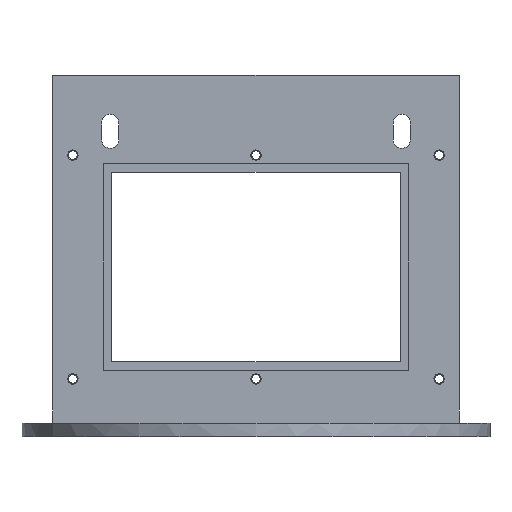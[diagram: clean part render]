
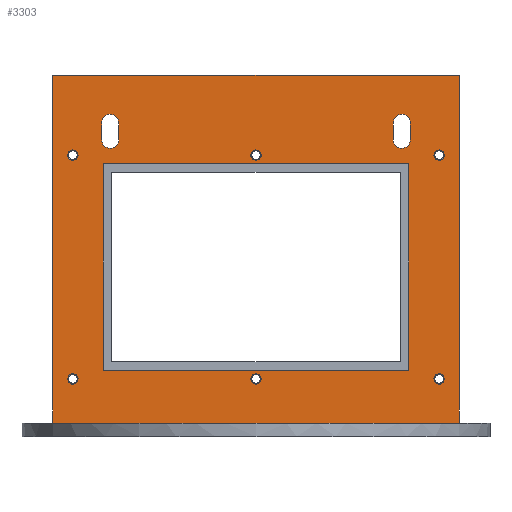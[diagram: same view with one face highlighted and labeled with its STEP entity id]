
A CAD part, front view. The second image highlights one B-rep face of the part: STEP entity #3303.
In plain terms, the highlighted planar face has unit normal (0, -1, 0).
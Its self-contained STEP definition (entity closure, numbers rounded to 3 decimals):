
#31=FACE_BOUND('',#481,.T.);
#32=FACE_BOUND('',#482,.T.);
#33=FACE_BOUND('',#483,.T.);
#34=FACE_BOUND('',#484,.T.);
#35=FACE_BOUND('',#485,.T.);
#36=FACE_BOUND('',#486,.T.);
#37=FACE_BOUND('',#487,.T.);
#38=FACE_BOUND('',#488,.T.);
#39=FACE_BOUND('',#489,.T.);
#122=PLANE('',#3622);
#290=FACE_OUTER_BOUND('',#480,.T.);
#480=EDGE_LOOP('',(#2537,#2538,#2539,#2540));
#481=EDGE_LOOP('',(#2541));
#482=EDGE_LOOP('',(#2542));
#483=EDGE_LOOP('',(#2543));
#484=EDGE_LOOP('',(#2544));
#485=EDGE_LOOP('',(#2545,#2546,#2547,#2548));
#486=EDGE_LOOP('',(#2549,#2550,#2551,#2552));
#487=EDGE_LOOP('',(#2553));
#488=EDGE_LOOP('',(#2554));
#489=EDGE_LOOP('',(#2555,#2556,#2557,#2558));
#772=LINE('',#5242,#1065);
#782=LINE('',#5264,#1075);
#783=LINE('',#5266,#1076);
#784=LINE('',#5267,#1077);
#785=LINE('',#5269,#1078);
#786=LINE('',#5272,#1079);
#787=LINE('',#5274,#1080);
#788=LINE('',#5277,#1081);
#789=LINE('',#5280,#1082);
#790=LINE('',#5282,#1083);
#791=LINE('',#5284,#1084);
#792=LINE('',#5285,#1085);
#1065=VECTOR('',#4269,1000.);
#1075=VECTOR('',#4285,1000.);
#1076=VECTOR('',#4286,1000.);
#1077=VECTOR('',#4287,1000.);
#1078=VECTOR('',#4288,1000.);
#1079=VECTOR('',#4291,1000.);
#1080=VECTOR('',#4292,1000.);
#1081=VECTOR('',#4295,1000.);
#1082=VECTOR('',#4296,1000.);
#1083=VECTOR('',#4297,1000.);
#1084=VECTOR('',#4298,1000.);
#1085=VECTOR('',#4299,1000.);
#1266=CIRCLE('',#3443,2.5);
#1270=CIRCLE('',#3449,2.5);
#1327=CIRCLE('',#3543,1.525);
#1330=CIRCLE('',#3548,1.525);
#1333=CIRCLE('',#3553,1.525);
#1336=CIRCLE('',#3558,1.525);
#1339=CIRCLE('',#3563,1.525);
#1342=CIRCLE('',#3568,1.525);
#1378=CIRCLE('',#3623,2.5);
#1379=CIRCLE('',#3624,2.5);
#1454=VERTEX_POINT('',#4825);
#1455=VERTEX_POINT('',#4826);
#1462=VERTEX_POINT('',#4843);
#1463=VERTEX_POINT('',#4844);
#1521=VERTEX_POINT('',#5034);
#1524=VERTEX_POINT('',#5044);
#1527=VERTEX_POINT('',#5054);
#1530=VERTEX_POINT('',#5064);
#1533=VERTEX_POINT('',#5074);
#1536=VERTEX_POINT('',#5084);
#1600=VERTEX_POINT('',#5239);
#1601=VERTEX_POINT('',#5241);
#1610=VERTEX_POINT('',#5263);
#1611=VERTEX_POINT('',#5265);
#1612=VERTEX_POINT('',#5268);
#1613=VERTEX_POINT('',#5270);
#1614=VERTEX_POINT('',#5273);
#1615=VERTEX_POINT('',#5275);
#1616=VERTEX_POINT('',#5278);
#1617=VERTEX_POINT('',#5279);
#1618=VERTEX_POINT('',#5281);
#1619=VERTEX_POINT('',#5283);
#1760=EDGE_CURVE('',#1454,#1455,#1266,.T.);
#1768=EDGE_CURVE('',#1462,#1463,#1270,.T.);
#1864=EDGE_CURVE('',#1521,#1521,#1327,.T.);
#1869=EDGE_CURVE('',#1524,#1524,#1330,.T.);
#1874=EDGE_CURVE('',#1527,#1527,#1333,.T.);
#1879=EDGE_CURVE('',#1530,#1530,#1336,.T.);
#1884=EDGE_CURVE('',#1533,#1533,#1339,.T.);
#1889=EDGE_CURVE('',#1536,#1536,#1342,.T.);
#1962=EDGE_CURVE('',#1601,#1600,#772,.T.);
#1974=EDGE_CURVE('',#1600,#1610,#782,.T.);
#1975=EDGE_CURVE('',#1611,#1610,#783,.T.);
#1976=EDGE_CURVE('',#1601,#1611,#784,.T.);
#1977=EDGE_CURVE('',#1455,#1612,#785,.T.);
#1978=EDGE_CURVE('',#1612,#1613,#1378,.T.);
#1979=EDGE_CURVE('',#1613,#1454,#786,.T.);
#1980=EDGE_CURVE('',#1463,#1614,#787,.T.);
#1981=EDGE_CURVE('',#1614,#1615,#1379,.T.);
#1982=EDGE_CURVE('',#1615,#1462,#788,.T.);
#1983=EDGE_CURVE('',#1616,#1617,#789,.T.);
#1984=EDGE_CURVE('',#1618,#1616,#790,.T.);
#1985=EDGE_CURVE('',#1619,#1618,#791,.T.);
#1986=EDGE_CURVE('',#1617,#1619,#792,.T.);
#2537=ORIENTED_EDGE('',*,*,#1962,.T.);
#2538=ORIENTED_EDGE('',*,*,#1974,.T.);
#2539=ORIENTED_EDGE('',*,*,#1975,.F.);
#2540=ORIENTED_EDGE('',*,*,#1976,.F.);
#2541=ORIENTED_EDGE('',*,*,#1879,.F.);
#2542=ORIENTED_EDGE('',*,*,#1874,.F.);
#2543=ORIENTED_EDGE('',*,*,#1869,.F.);
#2544=ORIENTED_EDGE('',*,*,#1864,.F.);
#2545=ORIENTED_EDGE('',*,*,#1977,.T.);
#2546=ORIENTED_EDGE('',*,*,#1978,.T.);
#2547=ORIENTED_EDGE('',*,*,#1979,.T.);
#2548=ORIENTED_EDGE('',*,*,#1760,.T.);
#2549=ORIENTED_EDGE('',*,*,#1980,.T.);
#2550=ORIENTED_EDGE('',*,*,#1981,.T.);
#2551=ORIENTED_EDGE('',*,*,#1982,.T.);
#2552=ORIENTED_EDGE('',*,*,#1768,.T.);
#2553=ORIENTED_EDGE('',*,*,#1884,.F.);
#2554=ORIENTED_EDGE('',*,*,#1889,.F.);
#2555=ORIENTED_EDGE('',*,*,#1983,.F.);
#2556=ORIENTED_EDGE('',*,*,#1984,.F.);
#2557=ORIENTED_EDGE('',*,*,#1985,.F.);
#2558=ORIENTED_EDGE('',*,*,#1986,.F.);
#3303=ADVANCED_FACE('',(#290,#31,#32,#33,#34,#35,#36,#37,#38,#39),#122,
 .F.);
#3443=AXIS2_PLACEMENT_3D('',#4827,#3823,#3824);
#3449=AXIS2_PLACEMENT_3D('',#4845,#3839,#3840);
#3543=AXIS2_PLACEMENT_3D('',#5036,#4066,#4067);
#3548=AXIS2_PLACEMENT_3D('',#5046,#4078,#4079);
#3553=AXIS2_PLACEMENT_3D('',#5056,#4090,#4091);
#3558=AXIS2_PLACEMENT_3D('',#5066,#4102,#4103);
#3563=AXIS2_PLACEMENT_3D('',#5076,#4114,#4115);
#3568=AXIS2_PLACEMENT_3D('',#5086,#4126,#4127);
#3622=AXIS2_PLACEMENT_3D('',#5262,#4283,#4284);
#3623=AXIS2_PLACEMENT_3D('',#5271,#4289,#4290);
#3624=AXIS2_PLACEMENT_3D('',#5276,#4293,#4294);
#3823=DIRECTION('center_axis',(0.,1.,0.));
#3824=DIRECTION('ref_axis',(0.,0.,1.));
#3839=DIRECTION('center_axis',(0.,1.,0.));
#3840=DIRECTION('ref_axis',(0.,0.,1.));
#4066=DIRECTION('center_axis',(0.,-1.,0.));
#4067=DIRECTION('ref_axis',(0.,0.,-1.));
#4078=DIRECTION('center_axis',(0.,-1.,0.));
#4079=DIRECTION('ref_axis',(0.,0.,-1.));
#4090=DIRECTION('center_axis',(0.,-1.,0.));
#4091=DIRECTION('ref_axis',(0.,0.,-1.));
#4102=DIRECTION('center_axis',(0.,-1.,0.));
#4103=DIRECTION('ref_axis',(0.,0.,-1.));
#4114=DIRECTION('center_axis',(0.,-1.,0.));
#4115=DIRECTION('ref_axis',(0.,0.,-1.));
#4126=DIRECTION('center_axis',(0.,-1.,0.));
#4127=DIRECTION('ref_axis',(0.,0.,-1.));
#4269=DIRECTION('',(0.,0.,-1.));
#4283=DIRECTION('center_axis',(0.,1.,0.));
#4284=DIRECTION('ref_axis',(0.,0.,1.));
#4285=DIRECTION('',(1.,0.,0.));
#4286=DIRECTION('',(0.,0.,-1.));
#4287=DIRECTION('',(1.,0.,0.));
#4288=DIRECTION('',(0.,0.,-1.));
#4289=DIRECTION('center_axis',(0.,1.,0.));
#4290=DIRECTION('ref_axis',(0.,0.,1.));
#4291=DIRECTION('',(0.,0.,1.));
#4292=DIRECTION('',(0.,0.,-1.));
#4293=DIRECTION('center_axis',(0.,1.,0.));
#4294=DIRECTION('ref_axis',(0.,0.,1.));
#4295=DIRECTION('',(0.,0.,1.));
#4296=DIRECTION('',(-1.,0.,0.));
#4297=DIRECTION('',(0.,0.,1.));
#4298=DIRECTION('',(1.,0.,0.));
#4299=DIRECTION('',(0.,0.,-1.));
#4825=CARTESIAN_POINT('',(40.5,-34.,92.5));
#4826=CARTESIAN_POINT('',(45.5,-34.,92.5));
#4827=CARTESIAN_POINT('Origin',(43.,-34.,92.5));
#4843=CARTESIAN_POINT('',(-45.5,-34.,92.5));
#4844=CARTESIAN_POINT('',(-40.5,-34.,92.5));
#4845=CARTESIAN_POINT('Origin',(-43.,-34.,92.5));
#5034=CARTESIAN_POINT('',(54.,-34.,18.525));
#5036=CARTESIAN_POINT('Origin',(54.,-34.,17.));
#5044=CARTESIAN_POINT('',(0.,-34.,18.525));
#5046=CARTESIAN_POINT('Origin',(0.,-34.,17.));
#5054=CARTESIAN_POINT('',(-54.,-34.,18.525));
#5056=CARTESIAN_POINT('Origin',(-54.,-34.,17.));
#5064=CARTESIAN_POINT('',(0.,-34.,84.525));
#5066=CARTESIAN_POINT('Origin',(0.,-34.,83.));
#5074=CARTESIAN_POINT('',(-54.,-34.,84.525));
#5076=CARTESIAN_POINT('Origin',(-54.,-34.,83.));
#5084=CARTESIAN_POINT('',(54.,-34.,84.525));
#5086=CARTESIAN_POINT('Origin',(54.,-34.,83.));
#5239=CARTESIAN_POINT('',(-60.,-34.,4.));
#5241=CARTESIAN_POINT('',(-60.,-34.,106.5));
#5242=CARTESIAN_POINT('',(-60.,-34.,106.5));
#5262=CARTESIAN_POINT('Origin',(-60.,-34.,106.5));
#5263=CARTESIAN_POINT('',(60.,-34.,4.));
#5264=CARTESIAN_POINT('',(60.,-34.,4.));
#5265=CARTESIAN_POINT('',(60.,-34.,106.5));
#5266=CARTESIAN_POINT('',(60.,-34.,106.5));
#5267=CARTESIAN_POINT('',(-60.,-34.,106.5));
#5268=CARTESIAN_POINT('',(45.5,-34.,87.5));
#5269=CARTESIAN_POINT('',(45.5,-34.,106.5));
#5270=CARTESIAN_POINT('',(40.5,-34.,87.5));
#5271=CARTESIAN_POINT('Origin',(43.,-34.,87.5));
#5272=CARTESIAN_POINT('',(40.5,-34.,106.5));
#5273=CARTESIAN_POINT('',(-40.5,-34.,87.5));
#5274=CARTESIAN_POINT('',(-40.5,-34.,106.5));
#5275=CARTESIAN_POINT('',(-45.5,-34.,87.5));
#5276=CARTESIAN_POINT('Origin',(-43.,-34.,87.5));
#5277=CARTESIAN_POINT('',(-45.5,-34.,106.5));
#5278=CARTESIAN_POINT('',(45.,-34.,80.5));
#5279=CARTESIAN_POINT('',(-45.,-34.,80.5));
#5280=CARTESIAN_POINT('',(45.,-34.,80.5));
#5281=CARTESIAN_POINT('',(45.,-34.,19.5));
#5282=CARTESIAN_POINT('',(45.,-34.,19.5));
#5283=CARTESIAN_POINT('',(-45.,-34.,19.5));
#5284=CARTESIAN_POINT('',(45.,-34.,19.5));
#5285=CARTESIAN_POINT('',(-45.,-34.,19.5));
